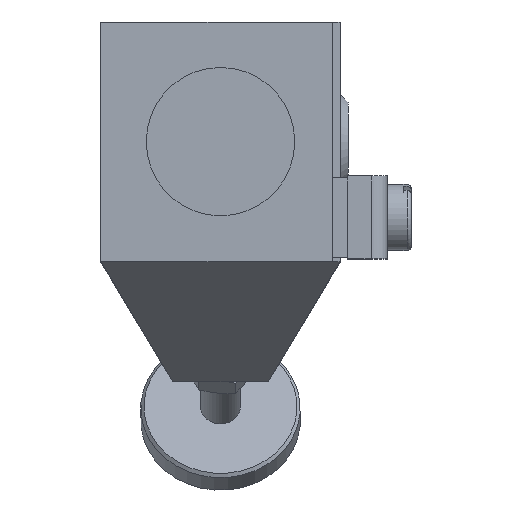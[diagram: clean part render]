
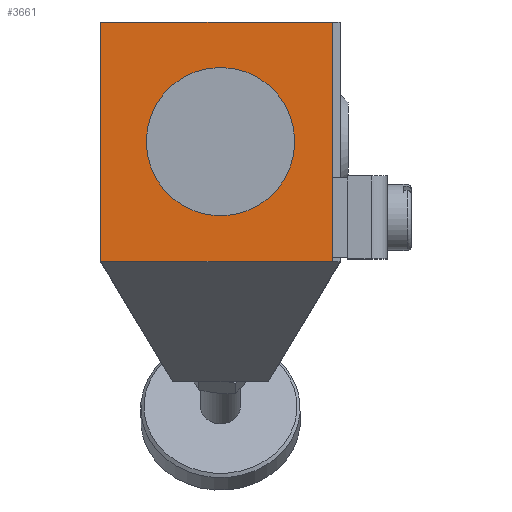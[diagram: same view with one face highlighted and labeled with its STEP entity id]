
A CAD part, top view. The second image highlights one B-rep face of the part: STEP entity #3661.
In plain terms, the highlighted planar face has unit normal (0, 0, 1).
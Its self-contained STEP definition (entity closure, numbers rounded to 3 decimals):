
#2750=CARTESIAN_POINT('',(9.3,0.,64.0));
#2751=VERTEX_POINT('',#2750);
#2752=CARTESIAN_POINT('',(0.0,0.0,64.0));
#2753=DIRECTION('',(0.0,0.0,-1.0));
#2754=DIRECTION('',(-1.0,0.0,0.0));
#2755=AXIS2_PLACEMENT_3D('',#2752,#2753,#2754);
#2756=CIRCLE('',#2755,9.3);
#2757=EDGE_CURVE('',#2751,#2751,#2756,.T.);
#3573=CARTESIAN_POINT('',(14.0,-15.0,64.0));
#3574=VERTEX_POINT('',#3573);
#3575=CARTESIAN_POINT('',(14.0,15.0,64.0));
#3576=VERTEX_POINT('',#3575);
#3577=CARTESIAN_POINT('',(14.0,-15.0,64.0));
#3578=DIRECTION('',(0.0,1.0,0.0));
#3579=VECTOR('',#3578,30.0);
#3580=LINE('',#3577,#3579);
#3581=EDGE_CURVE('',#3574,#3576,#3580,.T.);
#3628=CARTESIAN_POINT('',(0.,0.0,64.0));
#3629=DIRECTION('',(0.0,0.0,1.0));
#3630=DIRECTION('',(1.0,0.0,0.0));
#3631=AXIS2_PLACEMENT_3D('',#3628,#3629,#3630);
#3632=PLANE('',#3631);
#3633=ORIENTED_EDGE('',*,*,#3581,.T.);
#3634=CARTESIAN_POINT('',(-15.0,15.0,64.0));
#3635=VERTEX_POINT('',#3634);
#3636=CARTESIAN_POINT('',(-15.0,15.0,64.0));
#3637=DIRECTION('',(1.0,0.0,0.0));
#3638=VECTOR('',#3637,29.0);
#3639=LINE('',#3636,#3638);
#3640=EDGE_CURVE('',#3635,#3576,#3639,.T.);
#3641=ORIENTED_EDGE('',*,*,#3640,.F.);
#3642=CARTESIAN_POINT('',(-15.0,-15.0,64.0));
#3643=VERTEX_POINT('',#3642);
#3644=CARTESIAN_POINT('',(-15.0,-15.0,64.0));
#3645=DIRECTION('',(0.0,1.0,0.0));
#3646=VECTOR('',#3645,30.0);
#3647=LINE('',#3644,#3646);
#3648=EDGE_CURVE('',#3643,#3635,#3647,.T.);
#3649=ORIENTED_EDGE('',*,*,#3648,.F.);
#3650=CARTESIAN_POINT('',(14.0,-15.0,64.0));
#3651=DIRECTION('',(-1.0,0.0,0.0));
#3652=VECTOR('',#3651,29.0);
#3653=LINE('',#3650,#3652);
#3654=EDGE_CURVE('',#3574,#3643,#3653,.T.);
#3655=ORIENTED_EDGE('',*,*,#3654,.F.);
#3656=EDGE_LOOP('',(#3633,#3641,#3649,#3655));
#3657=FACE_OUTER_BOUND('',#3656,.T.);
#3658=ORIENTED_EDGE('',*,*,#2757,.T.);
#3659=EDGE_LOOP('',(#3658));
#3660=FACE_BOUND('',#3659,.T.);
#3661=ADVANCED_FACE('',(#3657,#3660),#3632,.T.);
